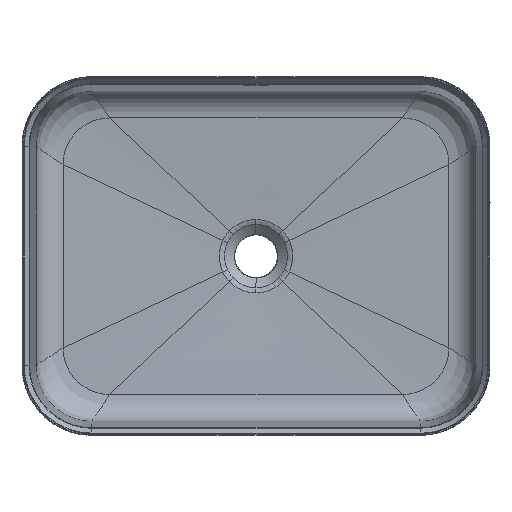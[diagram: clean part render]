
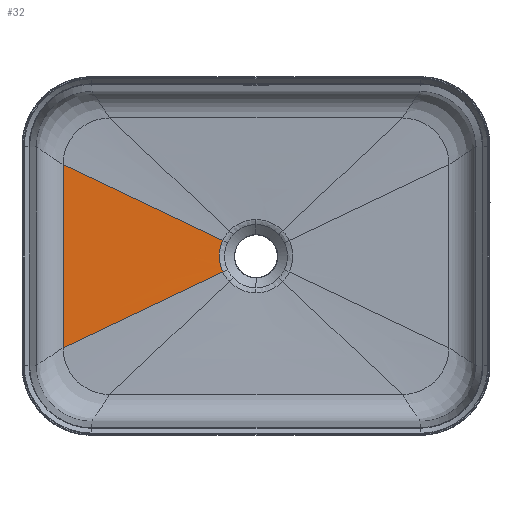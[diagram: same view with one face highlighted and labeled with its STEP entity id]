
A CAD part, top view. The second image highlights one B-rep face of the part: STEP entity #32.
In plain terms, the highlighted free-form (B-spline) face has degree [3, 3] with [8, 6] control points.
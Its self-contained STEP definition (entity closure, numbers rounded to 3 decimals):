
#32=ADVANCED_FACE('',(#369),#4793,.T.);
#369=FACE_OUTER_BOUND('',#706,.T.);
#706=EDGE_LOOP('',(#1049,#1050,#1051,#1052));
#1049=ORIENTED_EDGE('',*,*,#2811,.T.);
#1050=ORIENTED_EDGE('',*,*,#2807,.T.);
#1051=ORIENTED_EDGE('',*,*,#2615,.T.);
#1052=ORIENTED_EDGE('',*,*,#2616,.T.);
#2615=EDGE_CURVE('',#4182,#4181,#3997,.T.);
#2616=EDGE_CURVE('',#4181,#4291,#3398,.T.);
#2807=EDGE_CURVE('',#4292,#4182,#3496,.T.);
#2811=EDGE_CURVE('',#4291,#4292,#4092,.T.);
#3398=B_SPLINE_CURVE_WITH_KNOTS('',3,(#184713,#184714,#184715,#184716,#184717,
#184718),.UNSPECIFIED.,.F.,.F.,(4,1,1,4),(0.,64.386,128.771,
189.968),.UNSPECIFIED.);
#3496=B_SPLINE_CURVE_WITH_KNOTS('',3,(#185902,#185903,#185904,#185905,#185906,
#185907),.UNSPECIFIED.,.F.,.F.,(4,1,1,4),(-189.968,-128.771,
-64.386,0.),.UNSPECIFIED.);
#3997=(
BOUNDED_CURVE()
B_SPLINE_CURVE(1,(#184711,#184712),.UNSPECIFIED.,.F.,.F.)
B_SPLINE_CURVE_WITH_KNOTS((2,2),(19.152,215.848),
 .UNSPECIFIED.)
CURVE()
GEOMETRIC_REPRESENTATION_ITEM()
RATIONAL_B_SPLINE_CURVE((1.,1.))
REPRESENTATION_ITEM('')
);
#4092=(
BOUNDED_CURVE()
B_SPLINE_CURVE(3,(#185919,#185920,#185921,#185922,#185923,#185924,#185925),
 .UNSPECIFIED.,.F.,.F.)
B_SPLINE_CURVE_WITH_KNOTS((4,1,1,1,4),(0.011,8.47,
16.929,26.086,35.243),.UNSPECIFIED.)
CURVE()
GEOMETRIC_REPRESENTATION_ITEM()
RATIONAL_B_SPLINE_CURVE((1.,1.,1.,1.,1.,1.,
1.))
REPRESENTATION_ITEM('')
);
#4181=VERTEX_POINT('',#184345);
#4182=VERTEX_POINT('',#184346);
#4291=VERTEX_POINT('',#184455);
#4292=VERTEX_POINT('',#184456);
#4793=B_SPLINE_SURFACE_WITH_KNOTS('',3,3,((#5272,#5273,#5274,#5275,#5276,
#5277),(#5278,#5279,#5280,#5281,#5282,#5283),(#5284,#5285,#5286,#5287,#5288,
#5289),(#5290,#5291,#5292,#5293,#5294,#5295),(#5296,#5297,#5298,#5299,#5300,
#5301),(#5302,#5303,#5304,#5305,#5306,#5307),(#5308,#5309,#5310,#5311,#5312,
#5313),(#5314,#5315,#5316,#5317,#5318,#5319)),.UNSPECIFIED.,.F.,.F.,.F.,
(4,1,1,1,1,4),(4,1,1,4),(0.,19.398,38.796,58.193,
77.591,96.989),(0.,64.386,128.771,
193.157),.UNSPECIFIED.);
#5272=CARTESIAN_POINT('',(21475.203,98.348,-8521.09));
#5273=CARTESIAN_POINT('',(21494.583,89.149,-8521.753));
#5274=CARTESIAN_POINT('',(21533.341,70.753,-8523.079));
#5275=CARTESIAN_POINT('',(21591.48,43.158,-8525.069));
#5276=CARTESIAN_POINT('',(21630.239,24.761,-8526.395));
#5277=CARTESIAN_POINT('',(21649.618,15.563,-8527.058));
#5278=CARTESIAN_POINT('',(21475.203,85.235,-8521.09));
#5279=CARTESIAN_POINT('',(21494.48,77.278,-8521.755));
#5280=CARTESIAN_POINT('',(21533.035,61.366,-8523.08));
#5281=CARTESIAN_POINT('',(21590.868,37.497,-8525.069));
#5282=CARTESIAN_POINT('',(21629.422,21.585,-8526.395));
#5283=CARTESIAN_POINT('',(21648.7,13.628,-8527.058));
#5284=CARTESIAN_POINT('',(21475.203,59.009,-8521.09));
#5285=CARTESIAN_POINT('',(21494.314,53.517,-8521.755));
#5286=CARTESIAN_POINT('',(21532.536,42.535,-8523.08));
#5287=CARTESIAN_POINT('',(21589.87,26.061,-8525.069));
#5288=CARTESIAN_POINT('',(21628.092,15.078,-8526.395));
#5289=CARTESIAN_POINT('',(21647.203,9.587,-8527.058));
#5290=CARTESIAN_POINT('',(21475.203,19.67,-8521.09));
#5291=CARTESIAN_POINT('',(21494.188,17.843,-8521.754));
#5292=CARTESIAN_POINT('',(21532.157,14.19,-8523.08));
#5293=CARTESIAN_POINT('',(21589.111,8.71,-8525.069));
#5294=CARTESIAN_POINT('',(21627.08,5.057,-8526.395));
#5295=CARTESIAN_POINT('',(21646.065,3.23,-8527.058));
#5296=CARTESIAN_POINT('',(21475.203,-19.67,-8521.09));
#5297=CARTESIAN_POINT('',(21494.188,-17.843,-8521.754));
#5298=CARTESIAN_POINT('',(21532.157,-14.19,-8523.08));
#5299=CARTESIAN_POINT('',(21589.111,-8.71,-8525.069));
#5300=CARTESIAN_POINT('',(21627.08,-5.056,-8526.395));
#5301=CARTESIAN_POINT('',(21646.065,-3.23,-8527.058));
#5302=CARTESIAN_POINT('',(21475.203,-59.009,-8521.09));
#5303=CARTESIAN_POINT('',(21494.314,-53.517,-8521.755));
#5304=CARTESIAN_POINT('',(21532.537,-42.535,-8523.08));
#5305=CARTESIAN_POINT('',(21589.87,-26.061,-8525.069));
#5306=CARTESIAN_POINT('',(21628.092,-15.079,-8526.395));
#5307=CARTESIAN_POINT('',(21647.203,-9.587,-8527.058));
#5308=CARTESIAN_POINT('',(21475.203,-85.235,-8521.09));
#5309=CARTESIAN_POINT('',(21494.48,-77.278,-8521.755));
#5310=CARTESIAN_POINT('',(21533.035,-61.366,-8523.08));
#5311=CARTESIAN_POINT('',(21590.868,-37.497,-8525.069));
#5312=CARTESIAN_POINT('',(21629.422,-21.585,-8526.395));
#5313=CARTESIAN_POINT('',(21648.7,-13.628,-8527.058));
#5314=CARTESIAN_POINT('',(21475.203,-98.348,-8521.09));
#5315=CARTESIAN_POINT('',(21494.583,-89.149,-8521.753));
#5316=CARTESIAN_POINT('',(21533.341,-70.753,-8523.079));
#5317=CARTESIAN_POINT('',(21591.48,-43.158,-8525.069));
#5318=CARTESIAN_POINT('',(21630.239,-24.761,-8526.395));
#5319=CARTESIAN_POINT('',(21649.618,-15.563,-8527.058));
#184345=CARTESIAN_POINT('',(21475.203,-98.348,-8521.09));
#184346=CARTESIAN_POINT('',(21475.203,98.348,-8521.09));
#184455=CARTESIAN_POINT('',(21646.739,-16.93,-8526.96));
#184456=CARTESIAN_POINT('',(21646.739,16.93,-8526.96));
#184711=CARTESIAN_POINT('',(21475.203,98.348,-8521.09));
#184712=CARTESIAN_POINT('',(21475.203,-98.348,-8521.09));
#184713=CARTESIAN_POINT('',(21475.203,-98.348,-8521.09));
#184714=CARTESIAN_POINT('',(21494.583,-89.149,-8521.753));
#184715=CARTESIAN_POINT('',(21533.341,-70.753,-8523.079));
#184716=CARTESIAN_POINT('',(21590.52,-43.614,-8525.036));
#184717=CARTESIAN_POINT('',(21628.319,-25.672,-8526.329));
#184718=CARTESIAN_POINT('',(21646.739,-16.93,-8526.96));
#185902=CARTESIAN_POINT('',(21646.739,16.93,-8526.96));
#185903=CARTESIAN_POINT('',(21628.319,25.672,-8526.329));
#185904=CARTESIAN_POINT('',(21590.52,43.614,-8525.036));
#185905=CARTESIAN_POINT('',(21533.341,70.753,-8523.079));
#185906=CARTESIAN_POINT('',(21494.583,89.149,-8521.753));
#185907=CARTESIAN_POINT('',(21475.203,98.348,-8521.09));
#185919=CARTESIAN_POINT('',(21646.739,-16.93,-8526.96));
#185920=CARTESIAN_POINT('',(21645.543,-14.398,-8526.956));
#185921=CARTESIAN_POINT('',(21643.693,-9.079,-8526.95));
#185922=CARTESIAN_POINT('',(21642.626,-0.467,-8526.946));
#185923=CARTESIAN_POINT('',(21643.49,8.409,-8526.95));
#185924=CARTESIAN_POINT('',(21645.445,14.189,-8526.956));
#185925=CARTESIAN_POINT('',(21646.739,16.93,-8526.96));
